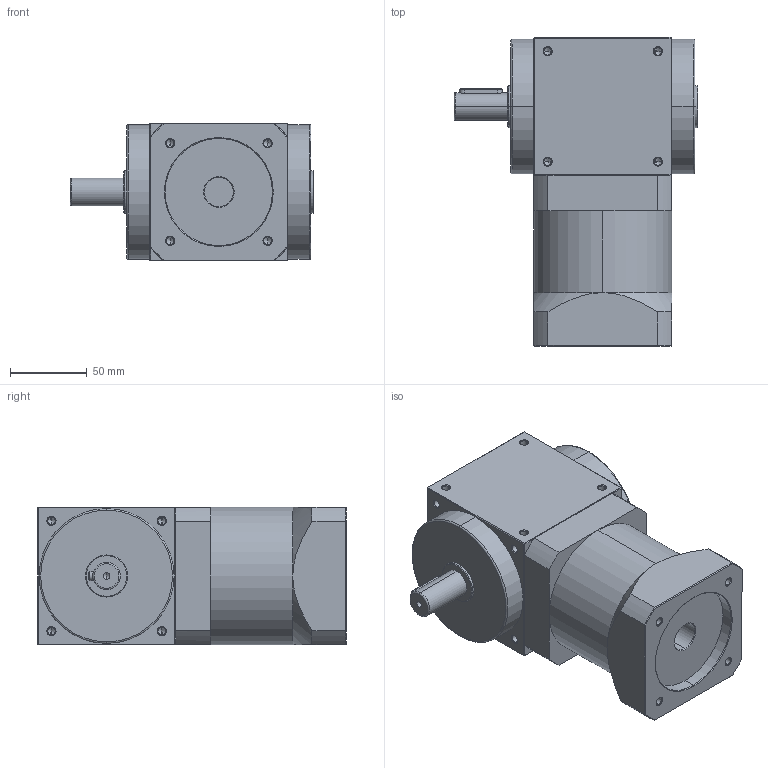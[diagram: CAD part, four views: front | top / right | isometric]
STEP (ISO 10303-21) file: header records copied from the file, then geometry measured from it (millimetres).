
FILE_DESCRIPTION (( 'STEP AP214' ), '1' );
FILE_NAME ('AT090-FL1-L1-19-70-90-M6.STEP', '2020-08-20T02:33:12', ( 'User' ), ( 'Far123' ), 'SwSTEP 2.0', 'SolidWorks 2015', '' );
FILE_SCHEMA (( 'AUTOMOTIVE_DESIGN' ));
Length unit declared in the file: millimetre
Products named in the file (1): AT090-FL1-L1-19-70-90-M6
Bounding box: 159 x 201.5 x 90 mm (x, y, z)
Volume: 1667968.1 mm3; surface area: 104169.6 mm2
Topology: 1 solids, 1 shells, 300 faces, 734 edges, 395 vertices
Faces by surface type: cone 116, cylinder 116, plane 62, torus 6
Entity records: 9490 total; most frequent: CARTESIAN_POINT 1930, DIRECTION 1392, ORIENTED_EDGE 1368, EDGE_CURVE 684, AXIS2_PLACEMENT_3D 537, VERTEX_POINT 395, EDGE_LOOP 333, VECTOR 318
